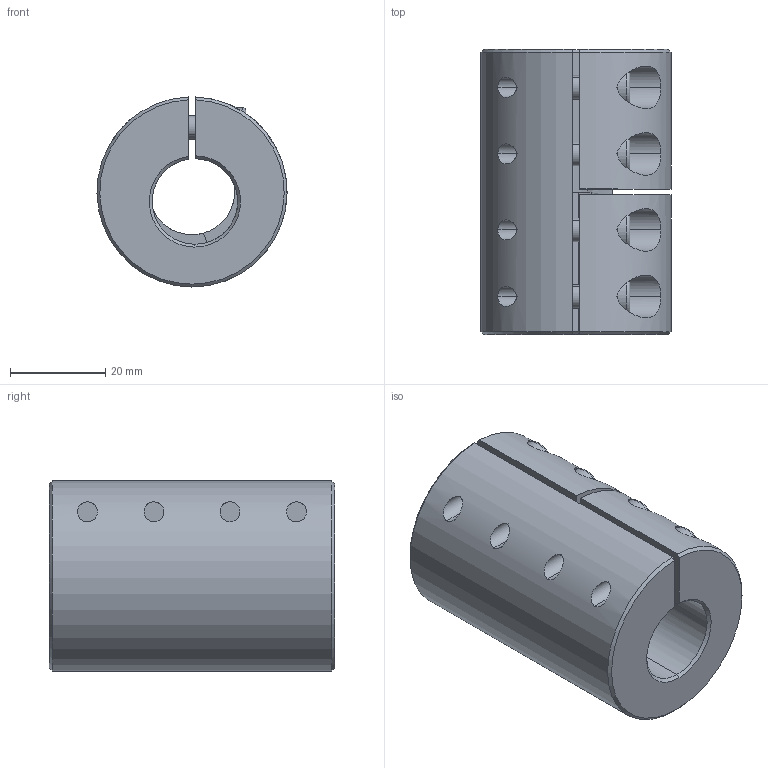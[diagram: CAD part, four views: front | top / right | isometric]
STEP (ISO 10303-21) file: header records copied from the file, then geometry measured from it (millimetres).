
FILE_DESCRIPTION (( 'STEP AP214' ), '1' );
FILE_NAME ('LL-B-D40L60-18-18½¨Ä£.STEP', '2022-07-22T01:03:55', ( '' ), ( '' ), 'SwSTEP 2.0', 'SolidWorks 2022', '' );
FILE_SCHEMA (( 'AUTOMOTIVE_DESIGN' ));
Length unit declared in the file: millimetre
Products named in the file (1): LL-B-D40L60-18-18膘耀
Bounding box: 40 x 60 x 39.99 mm (x, y, z)
Volume: 57043.5 mm3; surface area: 17523.3 mm2
Topology: 1 solids, 1 shells, 177 faces, 446 edges, 279 vertices
Faces by surface type: plane 85, cylinder 70, cone 14, torus 8
Entity records: 5827 total; most frequent: CARTESIAN_POINT 1479, DIRECTION 947, ORIENTED_EDGE 876, EDGE_CURVE 438, AXIS2_PLACEMENT_3D 371, VERTEX_POINT 279, EDGE_LOOP 209, LINE 205
